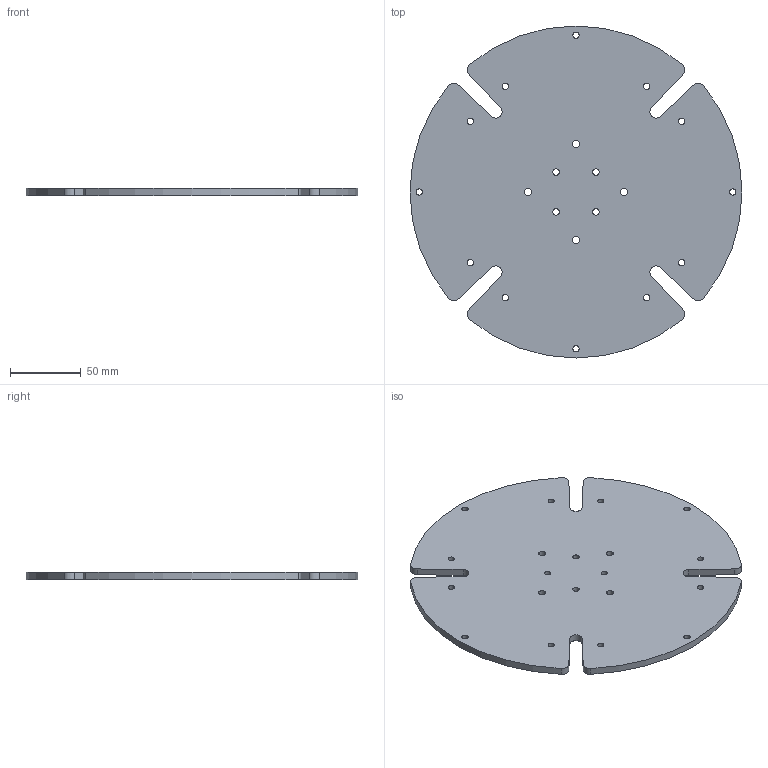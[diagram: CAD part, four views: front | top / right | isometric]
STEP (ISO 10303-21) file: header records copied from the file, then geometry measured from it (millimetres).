
FILE_DESCRIPTION((''),'2;1');
FILE_NAME('COV-02-0001-01','2021-06-30T',('Tomáš'),(''),'CREO PARAMETRIC BY PTC INC, 2016050','CREO PARAMETRIC BY PTC INC, 2016050','');
FILE_SCHEMA(('CONFIG_CONTROL_DESIGN'));
Length unit declared in the file: millimetre
Products named in the file (1): COV-02-0001-01
Bounding box: 235 x 235 x 5 mm (x, y, z)
Volume: 207279.4 mm3; surface area: 89507 mm2
Topology: 1 solids, 1 shells, 66 faces, 192 edges, 128 vertices
Faces by surface type: cylinder 56, plane 10
Entity records: 2366 total; most frequent: DIRECTION 436, CARTESIAN_POINT 386, ORIENTED_EDGE 384, EDGE_CURVE 192, AXIS2_PLACEMENT_3D 178, VERTEX_POINT 128, CIRCLE 112, EDGE_LOOP 106
